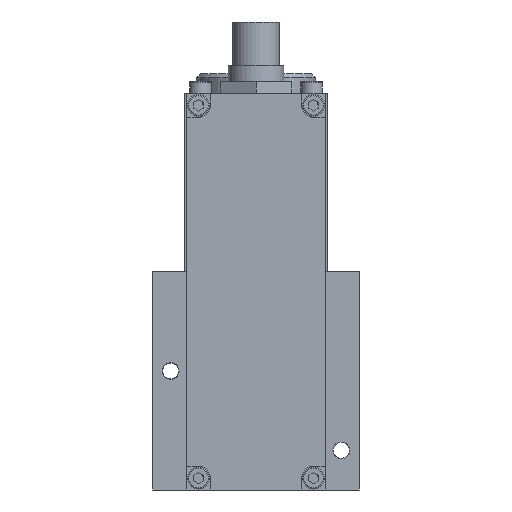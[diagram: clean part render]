
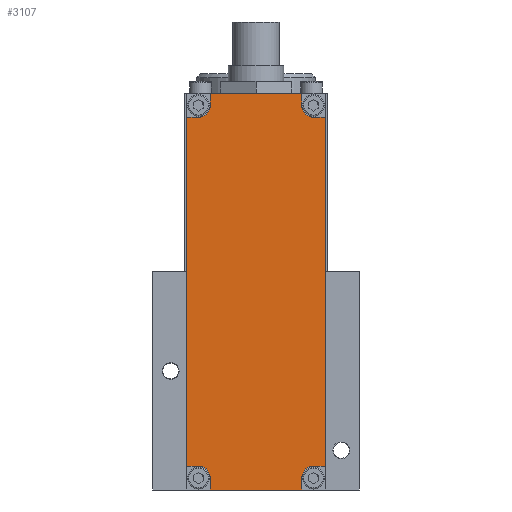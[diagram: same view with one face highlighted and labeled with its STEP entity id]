
A CAD part, front view. The second image highlights one B-rep face of the part: STEP entity #3107.
In plain terms, the highlighted planar face has unit normal (0, -1, 0).
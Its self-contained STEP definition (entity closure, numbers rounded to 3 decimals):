
#285=CIRCLE('',#3325,3.);
#286=CIRCLE('',#3326,3.);
#287=CIRCLE('',#3327,3.);
#288=CIRCLE('',#3328,3.);
#440=FACE_OUTER_BOUND('',#644,.T.);
#644=EDGE_LOOP('',(#2561,#2562,#2563,#2564,#2565,#2566,#2567,#2568,#2569,
#2570,#2571,#2572,#2573,#2574,#2575,#2576));
#875=LINE('',#5126,#1158);
#899=LINE('',#5174,#1182);
#920=LINE('',#5215,#1203);
#921=LINE('',#5217,#1204);
#922=LINE('',#5220,#1205);
#923=LINE('',#5222,#1206);
#924=LINE('',#5226,#1207);
#925=LINE('',#5228,#1208);
#926=LINE('',#5230,#1209);
#927=LINE('',#5234,#1210);
#928=LINE('',#5236,#1211);
#929=LINE('',#5238,#1212);
#1158=VECTOR('',#3806,23.);
#1182=VECTOR('',#3834,88.);
#1203=VECTOR('',#3873,3.);
#1204=VECTOR('',#3874,3.);
#1205=VECTOR('',#3877,3.);
#1206=VECTOR('',#3878,3.);
#1207=VECTOR('',#3881,3.);
#1208=VECTOR('',#3882,23.);
#1209=VECTOR('',#3883,3.);
#1210=VECTOR('',#3886,3.);
#1211=VECTOR('',#3887,88.);
#1212=VECTOR('',#3888,3.);
#1460=VERTEX_POINT('',#5123);
#1461=VERTEX_POINT('',#5125);
#1482=VERTEX_POINT('',#5171);
#1483=VERTEX_POINT('',#5173);
#1494=VERTEX_POINT('',#5214);
#1495=VERTEX_POINT('',#5216);
#1496=VERTEX_POINT('',#5218);
#1497=VERTEX_POINT('',#5221);
#1498=VERTEX_POINT('',#5223);
#1499=VERTEX_POINT('',#5225);
#1500=VERTEX_POINT('',#5227);
#1501=VERTEX_POINT('',#5229);
#1502=VERTEX_POINT('',#5231);
#1503=VERTEX_POINT('',#5233);
#1504=VERTEX_POINT('',#5235);
#1505=VERTEX_POINT('',#5237);
#1828=EDGE_CURVE('',#1460,#1461,#875,.T.);
#1852=EDGE_CURVE('',#1482,#1483,#899,.T.);
#1873=EDGE_CURVE('',#1494,#1461,#920,.T.);
#1874=EDGE_CURVE('',#1460,#1495,#921,.T.);
#1875=EDGE_CURVE('',#1495,#1496,#285,.T.);
#1876=EDGE_CURVE('',#1496,#1483,#922,.T.);
#1877=EDGE_CURVE('',#1482,#1497,#923,.T.);
#1878=EDGE_CURVE('',#1497,#1498,#286,.T.);
#1879=EDGE_CURVE('',#1498,#1499,#924,.T.);
#1880=EDGE_CURVE('',#1500,#1499,#925,.T.);
#1881=EDGE_CURVE('',#1500,#1501,#926,.T.);
#1882=EDGE_CURVE('',#1501,#1502,#287,.T.);
#1883=EDGE_CURVE('',#1502,#1503,#927,.T.);
#1884=EDGE_CURVE('',#1504,#1503,#928,.T.);
#1885=EDGE_CURVE('',#1504,#1505,#929,.T.);
#1886=EDGE_CURVE('',#1505,#1494,#288,.T.);
#2561=ORIENTED_EDGE('',*,*,#1873,.T.);
#2562=ORIENTED_EDGE('',*,*,#1828,.F.);
#2563=ORIENTED_EDGE('',*,*,#1874,.T.);
#2564=ORIENTED_EDGE('',*,*,#1875,.T.);
#2565=ORIENTED_EDGE('',*,*,#1876,.T.);
#2566=ORIENTED_EDGE('',*,*,#1852,.F.);
#2567=ORIENTED_EDGE('',*,*,#1877,.T.);
#2568=ORIENTED_EDGE('',*,*,#1878,.T.);
#2569=ORIENTED_EDGE('',*,*,#1879,.T.);
#2570=ORIENTED_EDGE('',*,*,#1880,.F.);
#2571=ORIENTED_EDGE('',*,*,#1881,.T.);
#2572=ORIENTED_EDGE('',*,*,#1882,.T.);
#2573=ORIENTED_EDGE('',*,*,#1883,.T.);
#2574=ORIENTED_EDGE('',*,*,#1884,.F.);
#2575=ORIENTED_EDGE('',*,*,#1885,.T.);
#2576=ORIENTED_EDGE('',*,*,#1886,.T.);
#2949=PLANE('',#3324);
#3107=ADVANCED_FACE('',(#440),#2949,.F.);
#3324=AXIS2_PLACEMENT_3D('',#5213,#3871,#3872);
#3325=AXIS2_PLACEMENT_3D('',#5219,#3875,#3876);
#3326=AXIS2_PLACEMENT_3D('',#5224,#3879,#3880);
#3327=AXIS2_PLACEMENT_3D('',#5232,#3884,#3885);
#3328=AXIS2_PLACEMENT_3D('',#5239,#3889,#3890);
#3806=DIRECTION('',(-1.,0.,0.));
#3834=DIRECTION('',(0.,0.,-1.));
#3871=DIRECTION('center_axis',(0.,1.,0.));
#3872=DIRECTION('ref_axis',(0.,0.,1.));
#3873=DIRECTION('',(0.,0.,-1.));
#3874=DIRECTION('',(0.,0.,1.));
#3875=DIRECTION('center_axis',(0.,1.,0.));
#3876=DIRECTION('ref_axis',(0.,0.,1.));
#3877=DIRECTION('',(1.,0.,0.));
#3878=DIRECTION('',(-1.,0.,0.));
#3879=DIRECTION('center_axis',(0.,1.,0.));
#3880=DIRECTION('ref_axis',(1.,0.,0.));
#3881=DIRECTION('',(0.,0.,1.));
#3882=DIRECTION('',(1.,0.,0.));
#3883=DIRECTION('',(0.,0.,-1.));
#3884=DIRECTION('center_axis',(0.,1.,0.));
#3885=DIRECTION('ref_axis',(0.,0.,-1.));
#3886=DIRECTION('',(-1.,0.,0.));
#3887=DIRECTION('',(0.,0.,1.));
#3888=DIRECTION('',(1.,0.,0.));
#3889=DIRECTION('center_axis',(0.,1.,0.));
#3890=DIRECTION('ref_axis',(-1.,0.,0.));
#5123=CARTESIAN_POINT('',(11.5,-49.8,0.));
#5125=CARTESIAN_POINT('',(-11.5,-49.8,0.));
#5126=CARTESIAN_POINT('',(11.5,-49.8,0.));
#5171=CARTESIAN_POINT('',(17.5,-49.8,94.));
#5173=CARTESIAN_POINT('',(17.5,-49.8,6.));
#5174=CARTESIAN_POINT('',(17.5,-49.8,94.));
#5213=CARTESIAN_POINT('Origin',(0.,-49.8,50.));
#5214=CARTESIAN_POINT('',(-11.5,-49.8,3.));
#5215=CARTESIAN_POINT('',(-11.5,-49.8,3.));
#5216=CARTESIAN_POINT('',(11.5,-49.8,3.));
#5217=CARTESIAN_POINT('',(11.5,-49.8,0.));
#5218=CARTESIAN_POINT('',(14.5,-49.8,6.));
#5219=CARTESIAN_POINT('Origin',(14.5,-49.8,3.));
#5220=CARTESIAN_POINT('',(14.5,-49.8,6.));
#5221=CARTESIAN_POINT('',(14.5,-49.8,94.));
#5222=CARTESIAN_POINT('',(17.5,-49.8,94.));
#5223=CARTESIAN_POINT('',(11.5,-49.8,97.));
#5224=CARTESIAN_POINT('Origin',(14.5,-49.8,97.));
#5225=CARTESIAN_POINT('',(11.5,-49.8,100.));
#5226=CARTESIAN_POINT('',(11.5,-49.8,97.));
#5227=CARTESIAN_POINT('',(-11.5,-49.8,100.));
#5228=CARTESIAN_POINT('',(-11.5,-49.8,100.));
#5229=CARTESIAN_POINT('',(-11.5,-49.8,97.));
#5230=CARTESIAN_POINT('',(-11.5,-49.8,100.));
#5231=CARTESIAN_POINT('',(-14.5,-49.8,94.));
#5232=CARTESIAN_POINT('Origin',(-14.5,-49.8,97.));
#5233=CARTESIAN_POINT('',(-17.5,-49.8,94.));
#5234=CARTESIAN_POINT('',(-14.5,-49.8,94.));
#5235=CARTESIAN_POINT('',(-17.5,-49.8,6.));
#5236=CARTESIAN_POINT('',(-17.5,-49.8,6.));
#5237=CARTESIAN_POINT('',(-14.5,-49.8,6.));
#5238=CARTESIAN_POINT('',(-17.5,-49.8,6.));
#5239=CARTESIAN_POINT('Origin',(-14.5,-49.8,3.));
